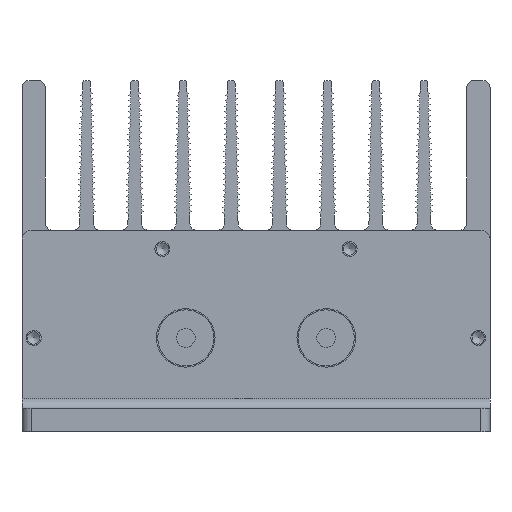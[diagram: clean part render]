
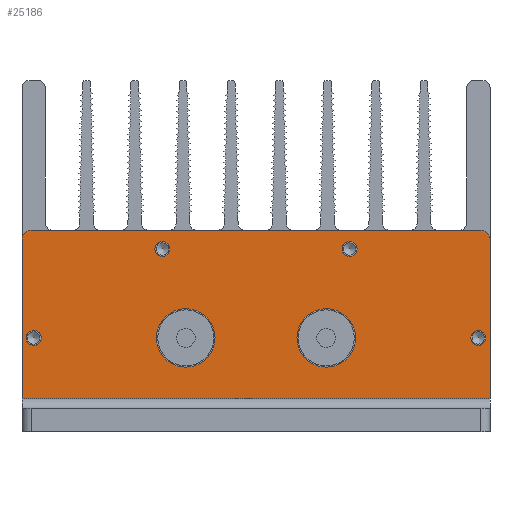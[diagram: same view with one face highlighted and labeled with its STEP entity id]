
A CAD part, front view. The second image highlights one B-rep face of the part: STEP entity #25186.
In plain terms, the highlighted planar face has unit normal (0, -1, 0).
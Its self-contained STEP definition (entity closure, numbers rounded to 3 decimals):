
#1031=LINE($,#36237,#4423);
#1032=LINE($,#36259,#4424);
#1033=LINE($,#36260,#4425);
#1034=LINE($,#36261,#4426);
#4423=VECTOR($,#29105,100.);
#4424=VECTOR($,#29132,34.);
#4425=VECTOR($,#29133,34.);
#4426=VECTOR($,#29134,96.);
#6940=FACE_BOUND($,#8300,.T.);
#6941=FACE_BOUND($,#8301,.T.);
#6942=FACE_BOUND($,#8302,.T.);
#6943=FACE_BOUND($,#8303,.T.);
#6944=FACE_BOUND($,#8304,.T.);
#6945=FACE_BOUND($,#8305,.T.);
#6946=FACE_BOUND($,#8306,.T.);
#8300=EDGE_LOOP($,(#16798));
#8301=EDGE_LOOP($,(#16799));
#8302=EDGE_LOOP($,(#16800,#16801,#16802,#16803,#16804,#16805));
#8303=EDGE_LOOP($,(#16806));
#8304=EDGE_LOOP($,(#16807));
#8305=EDGE_LOOP($,(#16808));
#8306=EDGE_LOOP($,(#16809));
#9583=CIRCLE($,#26492,6.25);
#9584=CIRCLE($,#26494,6.25);
#9596=CIRCLE($,#26513,2.);
#9598=CIRCLE($,#26516,2.);
#9606=CIRCLE($,#26530,1.6);
#9608=CIRCLE($,#26533,1.6);
#9610=CIRCLE($,#26536,1.6);
#9612=CIRCLE($,#26539,1.6);
#10733=VERTEX_POINT($,#36152);
#10734=VERTEX_POINT($,#36155);
#10749=VERTEX_POINT($,#36191);
#10750=VERTEX_POINT($,#36193);
#10753=VERTEX_POINT($,#36200);
#10754=VERTEX_POINT($,#36202);
#10765=VERTEX_POINT($,#36233);
#10766=VERTEX_POINT($,#36235);
#10768=VERTEX_POINT($,#36241);
#10770=VERTEX_POINT($,#36246);
#10772=VERTEX_POINT($,#36251);
#10774=VERTEX_POINT($,#36256);
#13139=EDGE_CURVE($,#10733,#10733,#9583,.T.);
#13140=EDGE_CURVE($,#10734,#10734,#9584,.T.);
#13155=EDGE_CURVE($,#10749,#10750,#9596,.T.);
#13159=EDGE_CURVE($,#10753,#10754,#9598,.T.);
#13176=EDGE_CURVE($,#10766,#10765,#1031,.T.);
#13178=EDGE_CURVE($,#10768,#10768,#9606,.T.);
#13180=EDGE_CURVE($,#10770,#10770,#9608,.T.);
#13182=EDGE_CURVE($,#10772,#10772,#9610,.T.);
#13184=EDGE_CURVE($,#10774,#10774,#9612,.T.);
#13185=EDGE_CURVE($,#10749,#10765,#1032,.T.);
#13186=EDGE_CURVE($,#10754,#10766,#1033,.T.);
#13187=EDGE_CURVE($,#10750,#10753,#1034,.T.);
#16798=ORIENTED_EDGE($,*,*,#13139,.T.);
#16799=ORIENTED_EDGE($,*,*,#13140,.T.);
#16800=ORIENTED_EDGE($,*,*,#13155,.F.);
#16801=ORIENTED_EDGE($,*,*,#13185,.T.);
#16802=ORIENTED_EDGE($,*,*,#13176,.F.);
#16803=ORIENTED_EDGE($,*,*,#13186,.F.);
#16804=ORIENTED_EDGE($,*,*,#13159,.F.);
#16805=ORIENTED_EDGE($,*,*,#13187,.F.);
#16806=ORIENTED_EDGE($,*,*,#13178,.T.);
#16807=ORIENTED_EDGE($,*,*,#13180,.T.);
#16808=ORIENTED_EDGE($,*,*,#13182,.T.);
#16809=ORIENTED_EDGE($,*,*,#13184,.T.);
#22777=PLANE($,#26540);
#25186=ADVANCED_FACE($,(#6940,#6941,#6942,#6943,#6944,#6945,#6946),#22777,
 .F.);
#26492=AXIS2_PLACEMENT_3D($,#36153,#29018,#29019);
#26494=AXIS2_PLACEMENT_3D($,#36156,#29022,#29023);
#26513=AXIS2_PLACEMENT_3D($,#36194,#29063,#29064);
#26516=AXIS2_PLACEMENT_3D($,#36203,#29071,#29072);
#26530=AXIS2_PLACEMENT_3D($,#36242,#29110,#29111);
#26533=AXIS2_PLACEMENT_3D($,#36247,#29116,#29117);
#26536=AXIS2_PLACEMENT_3D($,#36252,#29122,#29123);
#26539=AXIS2_PLACEMENT_3D($,#36257,#29128,#29129);
#26540=AXIS2_PLACEMENT_3D($,#36258,#29130,#29131);
#29018=DIRECTION('center_axis',(0.,1.,0.));
#29019=DIRECTION('ref_axis',(1.,0.,0.));
#29022=DIRECTION('center_axis',(0.,1.,0.));
#29023=DIRECTION('ref_axis',(1.,0.,0.));
#29063=DIRECTION('center_axis',(0.,1.,0.));
#29064=DIRECTION('ref_axis',(-0.707,0.,0.707));
#29071=DIRECTION('center_axis',(0.,1.,0.));
#29072=DIRECTION('ref_axis',(0.707,0.,0.707));
#29105=DIRECTION($,(-1.,0.,0.));
#29110=DIRECTION('center_axis',(0.,1.,0.));
#29111=DIRECTION('ref_axis',(1.,0.,0.));
#29116=DIRECTION('center_axis',(0.,1.,0.));
#29117=DIRECTION('ref_axis',(1.,0.,0.));
#29122=DIRECTION('center_axis',(0.,1.,0.));
#29123=DIRECTION('ref_axis',(1.,0.,0.));
#29128=DIRECTION('center_axis',(0.,1.,0.));
#29129=DIRECTION('ref_axis',(1.,0.,0.));
#29130=DIRECTION('center_axis',(0.,1.,0.));
#29131=DIRECTION('ref_axis',(0.,0.,1.));
#29132=DIRECTION($,(0.,0.,-1.));
#29133=DIRECTION($,(0.,0.,-1.));
#29134=DIRECTION($,(1.,0.,0.));
#36152=CARTESIAN_POINT('',(-14.75,-5.,-20.));
#36153=CARTESIAN_POINT('Origin',(-21.,-5.,-20.));
#36155=CARTESIAN_POINT('',(-44.75,-5.,-20.));
#36156=CARTESIAN_POINT('Origin',(-51.,-5.,-20.));
#36191=CARTESIAN_POINT('',(-86.,-5.,1.));
#36193=CARTESIAN_POINT('',(-84.,-5.,3.));
#36194=CARTESIAN_POINT('Origin',(-84.,-5.,1.));
#36200=CARTESIAN_POINT('',(12.,-5.,3.));
#36202=CARTESIAN_POINT('',(14.,-5.,1.));
#36203=CARTESIAN_POINT('Origin',(12.,-5.,1.));
#36233=CARTESIAN_POINT('',(-86.,-5.,-33.));
#36235=CARTESIAN_POINT('',(14.,-5.,-33.));
#36237=CARTESIAN_POINT($,(-86.,-5.,-33.));
#36241=CARTESIAN_POINT('',(13.1,-5.,-20.));
#36242=CARTESIAN_POINT('Origin',(11.5,-5.,-20.));
#36246=CARTESIAN_POINT('',(-81.9,-5.,-20.));
#36247=CARTESIAN_POINT('Origin',(-83.5,-5.,-20.));
#36251=CARTESIAN_POINT('',(-14.4,-5.,-1.));
#36252=CARTESIAN_POINT('Origin',(-16.,-5.,-1.));
#36256=CARTESIAN_POINT('',(-54.4,-5.,-1.));
#36257=CARTESIAN_POINT('Origin',(-56.,-5.,-1.));
#36258=CARTESIAN_POINT('Origin',(-86.,-5.,3.));
#36259=CARTESIAN_POINT($,(-86.,-5.,3.));
#36260=CARTESIAN_POINT($,(14.,-5.,3.));
#36261=CARTESIAN_POINT($,(-86.,-5.,3.));
